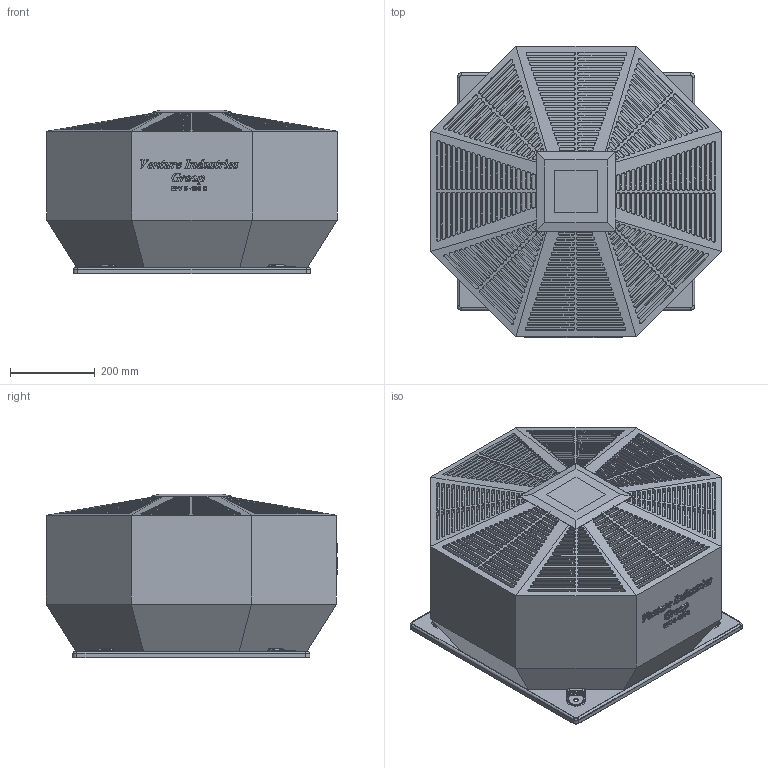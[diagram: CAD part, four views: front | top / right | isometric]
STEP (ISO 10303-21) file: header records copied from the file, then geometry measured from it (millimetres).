
FILE_DESCRIPTION(/* description */ (''),/* implementation_level */ '2;1');
FILE_NAME(/* name */ 'D:\Piotr - Dokumenty\Modele uproszczone\RFV\RFV 6-400S\RFV_6_400_S.stp',/* time_stamp */ '2021-03-22T11:46:36+01:00',/* author */ ('Piotr.Nowotniak'),/* organization */ (''),/* preprocessor_version */ 'ST-DEVELOPER v18',/* originating_system */ 'Autodesk Inventor 2020',/* authorisation */ '');
FILE_SCHEMA (('AUTOMOTIVE_DESIGN { 1 0 10303 214 3 1 1 }'));
Products named in the file (1): RFV_6_400_S
Bounding box: 685 x 688 x 386.5 mm (x, y, z)
Volume: 123291579.2 mm3; surface area: 2111092.3 mm2
Topology: 1 solids, 2 shells, 3719 faces, 9938 edges, 6580 vertices
Faces by surface type: plane 1906, cylinder 1334, bspline 456, torus 22, cone 1
Full cylindrical faces by diameter (mm): 12 x4, 450 x1, 451.076 x1
Entity records: 124681 total; most frequent: CARTESIAN_POINT 28899, ORIENTED_EDGE 19876, DIRECTION 18332, EDGE_CURVE 9938, VERTEX_POINT 6580, LINE 6270, VECTOR 6270, AXIS2_PLACEMENT_3D 6031
